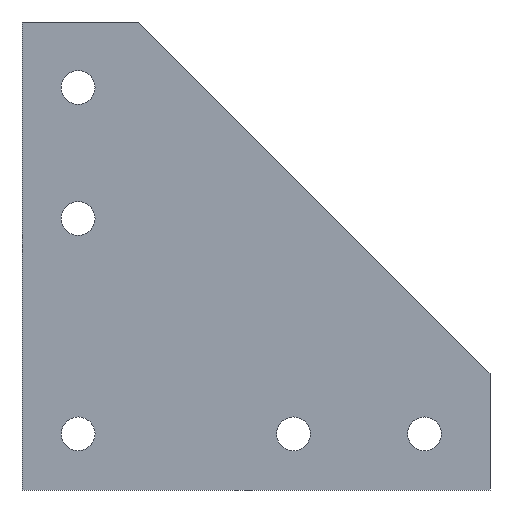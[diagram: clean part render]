
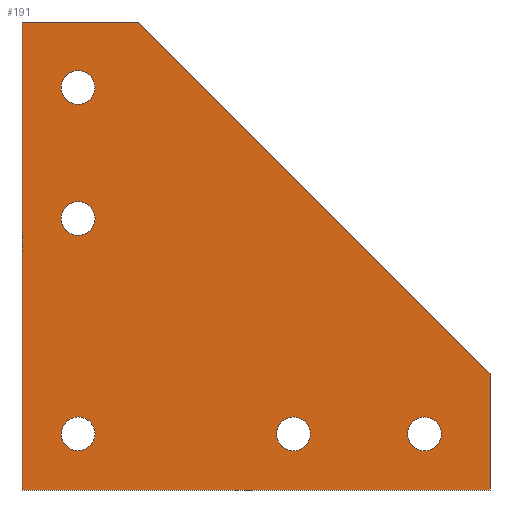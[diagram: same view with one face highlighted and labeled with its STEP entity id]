
A CAD part, front view. The second image highlights one B-rep face of the part: STEP entity #191.
In plain terms, the highlighted planar face has unit normal (0, -1, 0).
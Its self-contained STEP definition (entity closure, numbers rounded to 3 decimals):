
#1 = DIRECTION ( 'NONE',  ( 0., 1., 0. ) ) ;
#3 = VECTOR ( 'NONE', #154, 1000. ) ;
#5 = AXIS2_PLACEMENT_3D ( 'NONE', #465, #557, #561 ) ;
#6 = EDGE_LOOP ( 'NONE', ( #501, #217 ) ) ;
#8 = CARTESIAN_POINT ( 'NONE',  ( 107.5, 0., -102.5 ) ) ;
#11 = CARTESIAN_POINT ( 'NONE',  ( 15., 0., -45. ) ) ;
#23 = CIRCLE ( 'NONE', #456, 4.5 ) ;
#27 = EDGE_CURVE ( 'NONE', #559, #286, #300, .T. ) ;
#35 = DIRECTION ( 'NONE',  ( 0., 0., 1. ) ) ;
#37 = ORIENTED_EDGE ( 'NONE', *, *, #524, .T. ) ;
#40 = CARTESIAN_POINT ( 'NONE',  ( 15., 0., -107. ) ) ;
#44 = ORIENTED_EDGE ( 'NONE', *, *, #220, .T. ) ;
#46 = EDGE_CURVE ( 'NONE', #386, #432, #514, .T. ) ;
#47 = DIRECTION ( 'NONE',  ( 0., 1., 0. ) ) ;
#50 = DIRECTION ( 'NONE',  ( 0.707, 0., -0.707 ) ) ;
#54 = CARTESIAN_POINT ( 'NONE',  ( 107.5, 0., -107. ) ) ;
#59 = CARTESIAN_POINT ( 'NONE',  ( 0., 0., 3. ) ) ;
#61 = DIRECTION ( 'NONE',  ( 0., 0., 1. ) ) ;
#71 = CIRCLE ( 'NONE', #420, 4.5 ) ;
#72 = AXIS2_PLACEMENT_3D ( 'NONE', #511, #289, #35 ) ;
#83 = CIRCLE ( 'NONE', #548, 4.5 ) ;
#87 = EDGE_CURVE ( 'NONE', #369, #176, #597, .T. ) ;
#89 = AXIS2_PLACEMENT_3D ( 'NONE', #150, #1, #291 ) ;
#102 = LINE ( 'NONE', #423, #192 ) ;
#108 = DIRECTION ( 'NONE',  ( 0., 1., 0. ) ) ;
#109 = EDGE_CURVE ( 'NONE', #336, #531, #71, .T. ) ;
#111 = EDGE_LOOP ( 'NONE', ( #594, #460 ) ) ;
#114 = AXIS2_PLACEMENT_3D ( 'NONE', #54, #383, #472 ) ;
#127 = VECTOR ( 'NONE', #476, 1000. ) ;
#132 = CARTESIAN_POINT ( 'NONE',  ( 72.5, 0., -111.5 ) ) ;
#138 = CARTESIAN_POINT ( 'NONE',  ( 15., 0., -19. ) ) ;
#149 = LINE ( 'NONE', #234, #3 ) ;
#150 = CARTESIAN_POINT ( 'NONE',  ( 0., 0., 0. ) ) ;
#153 = CARTESIAN_POINT ( 'NONE',  ( 72.5, 0., -102.5 ) ) ;
#154 = DIRECTION ( 'NONE',  ( 0., 0., -1. ) ) ;
#156 = CARTESIAN_POINT ( 'NONE',  ( 72.5, 0., -107. ) ) ;
#171 = VERTEX_POINT ( 'NONE', #591 ) ;
#174 = EDGE_CURVE ( 'NONE', #225, #328, #203, .T. ) ;
#176 = VERTEX_POINT ( 'NONE', #132 ) ;
#185 = DIRECTION ( 'NONE',  ( 0., 1., 0. ) ) ;
#188 = CARTESIAN_POINT ( 'NONE',  ( 15., 0., -49.5 ) ) ;
#191 = ADVANCED_FACE ( 'NONE', ( #275, #389, #282, #426, #235, #502 ), #604, .F. ) ;
#192 = VECTOR ( 'NONE', #50, 1000. ) ;
#193 = ORIENTED_EDGE ( 'NONE', *, *, #586, .F. ) ;
#194 = AXIS2_PLACEMENT_3D ( 'NONE', #188, #521, #195 ) ;
#195 = DIRECTION ( 'NONE',  ( 0., 0., 1. ) ) ;
#200 = CARTESIAN_POINT ( 'NONE',  ( 125., 0., -91. ) ) ;
#203 = CIRCLE ( 'NONE', #277, 4.5 ) ;
#205 = EDGE_LOOP ( 'NONE', ( #44, #397 ) ) ;
#207 = EDGE_CURVE ( 'NONE', #523, #598, #23, .T. ) ;
#217 = ORIENTED_EDGE ( 'NONE', *, *, #554, .T. ) ;
#220 = EDGE_CURVE ( 'NONE', #328, #225, #403, .T. ) ;
#223 = DIRECTION ( 'NONE',  ( 0., 1., 0. ) ) ;
#225 = VERTEX_POINT ( 'NONE', #138 ) ;
#234 = CARTESIAN_POINT ( 'NONE',  ( 125., 0., 0. ) ) ;
#235 = FACE_BOUND ( 'NONE', #6, .T. ) ;
#239 = CIRCLE ( 'NONE', #5, 4.5 ) ;
#241 = VECTOR ( 'NONE', #433, 1000. ) ;
#246 = CARTESIAN_POINT ( 'NONE',  ( 0., 0., 0. ) ) ;
#251 = CARTESIAN_POINT ( 'NONE',  ( 15., 0., -102.5 ) ) ;
#252 = CIRCLE ( 'NONE', #194, 4.5 ) ;
#253 = DIRECTION ( 'NONE',  ( 0., 1., 0. ) ) ;
#263 = ORIENTED_EDGE ( 'NONE', *, *, #577, .T. ) ;
#272 = CARTESIAN_POINT ( 'NONE',  ( 15., 0., -14.5 ) ) ;
#273 = CIRCLE ( 'NONE', #114, 4.5 ) ;
#275 = FACE_BOUND ( 'NONE', #205, .T. ) ;
#277 = AXIS2_PLACEMENT_3D ( 'NONE', #272, #223, #541 ) ;
#280 = EDGE_CURVE ( 'NONE', #171, #350, #102, .T. ) ;
#282 = FACE_BOUND ( 'NONE', #486, .T. ) ;
#286 = VERTEX_POINT ( 'NONE', #512 ) ;
#287 = CARTESIAN_POINT ( 'NONE',  ( 107.5, 0., -111.5 ) ) ;
#289 = DIRECTION ( 'NONE',  ( 0., 1., 0. ) ) ;
#291 = DIRECTION ( 'NONE',  ( 0., 0., 1. ) ) ;
#292 = ORIENTED_EDGE ( 'NONE', *, *, #280, .F. ) ;
#293 = CARTESIAN_POINT ( 'NONE',  ( 0., 0., 3. ) ) ;
#296 = CARTESIAN_POINT ( 'NONE',  ( 0., 0., -122. ) ) ;
#300 = LINE ( 'NONE', #296, #361 ) ;
#313 = EDGE_CURVE ( 'NONE', #432, #386, #83, .T. ) ;
#328 = VERTEX_POINT ( 'NONE', #470 ) ;
#330 = DIRECTION ( 'NONE',  ( 0., 0., 1. ) ) ;
#336 = VERTEX_POINT ( 'NONE', #11 ) ;
#338 = CARTESIAN_POINT ( 'NONE',  ( 15., 0., -54. ) ) ;
#340 = AXIS2_PLACEMENT_3D ( 'NONE', #156, #253, #345 ) ;
#344 = LINE ( 'NONE', #246, #241 ) ;
#345 = DIRECTION ( 'NONE',  ( 0., 0., 1. ) ) ;
#350 = VERTEX_POINT ( 'NONE', #200 ) ;
#361 = VECTOR ( 'NONE', #445, 1000. ) ;
#365 = DIRECTION ( 'NONE',  ( 0., 1., 0. ) ) ;
#369 = VERTEX_POINT ( 'NONE', #153 ) ;
#375 = VERTEX_POINT ( 'NONE', #59 ) ;
#382 = ORIENTED_EDGE ( 'NONE', *, *, #46, .T. ) ;
#383 = DIRECTION ( 'NONE',  ( 0., 1., 0. ) ) ;
#386 = VERTEX_POINT ( 'NONE', #251 ) ;
#389 = FACE_BOUND ( 'NONE', #111, .T. ) ;
#390 = EDGE_LOOP ( 'NONE', ( #443, #263 ) ) ;
#397 = ORIENTED_EDGE ( 'NONE', *, *, #174, .T. ) ;
#403 = CIRCLE ( 'NONE', #72, 4.5 ) ;
#420 = AXIS2_PLACEMENT_3D ( 'NONE', #495, #365, #492 ) ;
#423 = CARTESIAN_POINT ( 'NONE',  ( 17., 0., 17. ) ) ;
#426 = FACE_BOUND ( 'NONE', #390, .T. ) ;
#432 = VERTEX_POINT ( 'NONE', #529 ) ;
#433 = DIRECTION ( 'NONE',  ( 0., 0., -1. ) ) ;
#443 = ORIENTED_EDGE ( 'NONE', *, *, #87, .T. ) ;
#445 = DIRECTION ( 'NONE',  ( 1., 0., 0. ) ) ;
#456 = AXIS2_PLACEMENT_3D ( 'NONE', #464, #47, #330 ) ;
#460 = ORIENTED_EDGE ( 'NONE', *, *, #537, .T. ) ;
#464 = CARTESIAN_POINT ( 'NONE',  ( 107.5, 0., -107. ) ) ;
#465 = CARTESIAN_POINT ( 'NONE',  ( 72.5, 0., -107. ) ) ;
#469 = ORIENTED_EDGE ( 'NONE', *, *, #313, .T. ) ;
#470 = CARTESIAN_POINT ( 'NONE',  ( 15., 0., -10. ) ) ;
#472 = DIRECTION ( 'NONE',  ( 0., 0., 1. ) ) ;
#473 = ORIENTED_EDGE ( 'NONE', *, *, #543, .F. ) ;
#476 = DIRECTION ( 'NONE',  ( 1., 0., 0. ) ) ;
#482 = CARTESIAN_POINT ( 'NONE',  ( 15., 0., -107. ) ) ;
#486 = EDGE_LOOP ( 'NONE', ( #382, #469 ) ) ;
#492 = DIRECTION ( 'NONE',  ( 0., 0., 1. ) ) ;
#495 = CARTESIAN_POINT ( 'NONE',  ( 15., 0., -49.5 ) ) ;
#501 = ORIENTED_EDGE ( 'NONE', *, *, #207, .T. ) ;
#502 = FACE_OUTER_BOUND ( 'NONE', #578, .T. ) ;
#506 = DIRECTION ( 'NONE',  ( 0., 0., 1. ) ) ;
#511 = CARTESIAN_POINT ( 'NONE',  ( 15., 0., -14.5 ) ) ;
#512 = CARTESIAN_POINT ( 'NONE',  ( 125., 0., -122. ) ) ;
#514 = CIRCLE ( 'NONE', #546, 4.5 ) ;
#521 = DIRECTION ( 'NONE',  ( 0., 1., 0. ) ) ;
#523 = VERTEX_POINT ( 'NONE', #8 ) ;
#524 = EDGE_CURVE ( 'NONE', #375, #559, #344, .T. ) ;
#529 = CARTESIAN_POINT ( 'NONE',  ( 15., 0., -111.5 ) ) ;
#531 = VERTEX_POINT ( 'NONE', #338 ) ;
#537 = EDGE_CURVE ( 'NONE', #531, #336, #252, .T. ) ;
#541 = DIRECTION ( 'NONE',  ( 0., 0., 1. ) ) ;
#543 = EDGE_CURVE ( 'NONE', #350, #286, #149, .T. ) ;
#546 = AXIS2_PLACEMENT_3D ( 'NONE', #482, #108, #61 ) ;
#548 = AXIS2_PLACEMENT_3D ( 'NONE', #40, #185, #506 ) ;
#554 = EDGE_CURVE ( 'NONE', #598, #523, #273, .T. ) ;
#557 = DIRECTION ( 'NONE',  ( 0., 1., 0. ) ) ;
#559 = VERTEX_POINT ( 'NONE', #603 ) ;
#561 = DIRECTION ( 'NONE',  ( 0., 0., 1. ) ) ;
#563 = ORIENTED_EDGE ( 'NONE', *, *, #27, .T. ) ;
#570 = LINE ( 'NONE', #293, #127 ) ;
#577 = EDGE_CURVE ( 'NONE', #176, #369, #239, .T. ) ;
#578 = EDGE_LOOP ( 'NONE', ( #193, #37, #563, #473, #292 ) ) ;
#586 = EDGE_CURVE ( 'NONE', #375, #171, #570, .T. ) ;
#591 = CARTESIAN_POINT ( 'NONE',  ( 31., 0., 3. ) ) ;
#594 = ORIENTED_EDGE ( 'NONE', *, *, #109, .T. ) ;
#597 = CIRCLE ( 'NONE', #340, 4.5 ) ;
#598 = VERTEX_POINT ( 'NONE', #287 ) ;
#603 = CARTESIAN_POINT ( 'NONE',  ( 0., 0., -122. ) ) ;
#604 = PLANE ( 'NONE',  #89 ) ;
